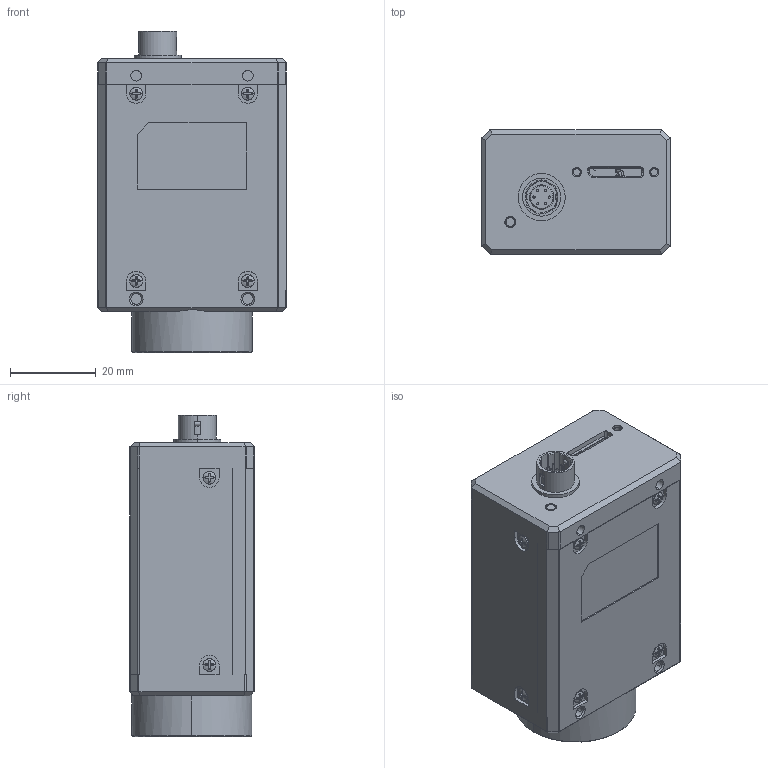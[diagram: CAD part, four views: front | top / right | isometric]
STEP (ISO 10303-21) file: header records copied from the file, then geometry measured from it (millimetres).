
FILE_DESCRIPTION((''),'2;1');
FILE_NAME('MV-CE013-50UMUC','2020-03-11T15:27:15',('wangyijun6'),(''),'CREO PARAMETRIC BY PTC INC, 2017260','CREO PARAMETRIC BY PTC INC, 2017260','');
FILE_SCHEMA(('CONFIG_CONTROL_DESIGN'));
Products named in the file (1): MV-CE013-50UMUC
Bounding box: 44 x 29.1 x 74.76 mm (x, y, z)
Volume: 72853.2 mm3; surface area: 22038.2 mm2
Topology: 1 solids, 4 shells, 1553 faces, 4288 edges, 2755 vertices
Faces by surface type: plane 748, cylinder 472, torus 154, bspline 124, cone 35, sphere 20
Entity records: 57875 total; most frequent: CARTESIAN_POINT 18236, ORIENTED_EDGE 8568, DIRECTION 8222, EDGE_CURVE 4284, AXIS2_PLACEMENT_3D 2972, VERTEX_POINT 2755, VECTOR 2278, LINE 2278
